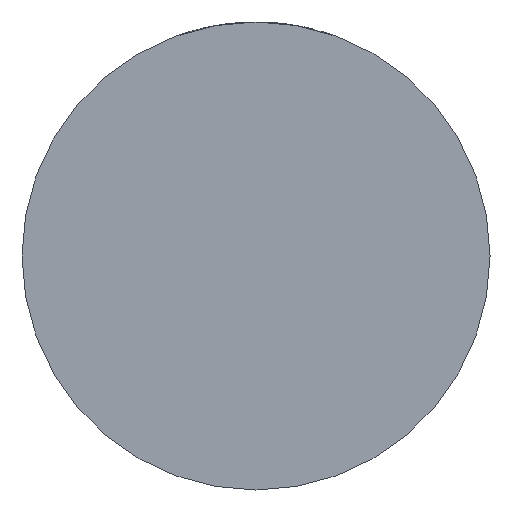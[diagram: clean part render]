
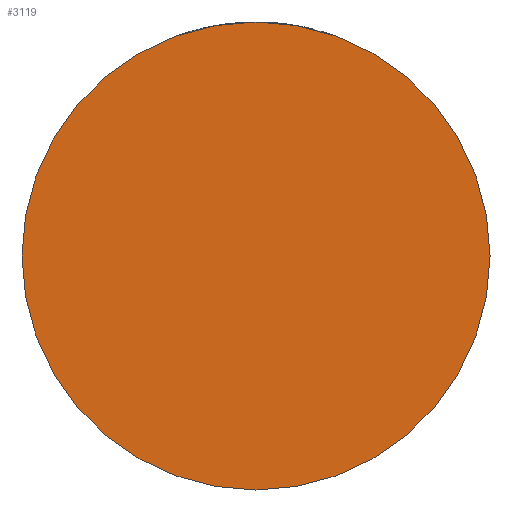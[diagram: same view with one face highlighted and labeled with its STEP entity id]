
A CAD part, front view. The second image highlights one B-rep face of the part: STEP entity #3119.
In plain terms, the highlighted planar face has unit normal (0, -1, 0).
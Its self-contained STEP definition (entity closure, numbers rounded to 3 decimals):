
#200 = ORIENTED_EDGE ( 'NONE', *, *, #3602, .T. ) ;
#212 = DIRECTION ( 'NONE',  ( 1., 0., 0. ) ) ;
#234 = VERTEX_POINT ( 'NONE', #4220 ) ;
#458 = CARTESIAN_POINT ( 'NONE',  ( -29.5, -25., 0. ) ) ;
#467 = PLANE ( 'NONE',  #2673 ) ;
#531 = DIRECTION ( 'NONE',  ( 0., -1., 0. ) ) ;
#562 = FACE_OUTER_BOUND ( 'NONE', #2546, .T. ) ;
#1480 = CARTESIAN_POINT ( 'NONE',  ( 0., -25., 0. ) ) ;
#1738 = AXIS2_PLACEMENT_3D ( 'NONE', #3916, #3580, #1917 ) ;
#1810 = CIRCLE ( 'NONE', #1738, 29.5 ) ;
#1917 = DIRECTION ( 'NONE',  ( 1., 0., 0. ) ) ;
#2546 = EDGE_LOOP ( 'NONE', ( #4090, #200 ) ) ;
#2660 = VERTEX_POINT ( 'NONE', #458 ) ;
#2673 = AXIS2_PLACEMENT_3D ( 'NONE', #2831, #531, #3506 ) ;
#2831 = CARTESIAN_POINT ( 'NONE',  ( 0., -25., 0. ) ) ;
#3119 = ADVANCED_FACE ( 'NONE', ( #562 ), #467, .T. ) ;
#3151 = CIRCLE ( 'NONE', #3743, 29.5 ) ;
#3438 = EDGE_CURVE ( 'NONE', #2660, #234, #3151, .T. ) ;
#3506 = DIRECTION ( 'NONE',  ( 1., 0., 0. ) ) ;
#3580 = DIRECTION ( 'NONE',  ( 0., -1., 0. ) ) ;
#3602 = EDGE_CURVE ( 'NONE', #234, #2660, #1810, .T. ) ;
#3743 = AXIS2_PLACEMENT_3D ( 'NONE', #1480, #3973, #212 ) ;
#3916 = CARTESIAN_POINT ( 'NONE',  ( 0., -25., 0. ) ) ;
#3973 = DIRECTION ( 'NONE',  ( 0., -1., 0. ) ) ;
#4090 = ORIENTED_EDGE ( 'NONE', *, *, #3438, .T. ) ;
#4220 = CARTESIAN_POINT ( 'NONE',  ( 29.5, -25., 0. ) ) ;
